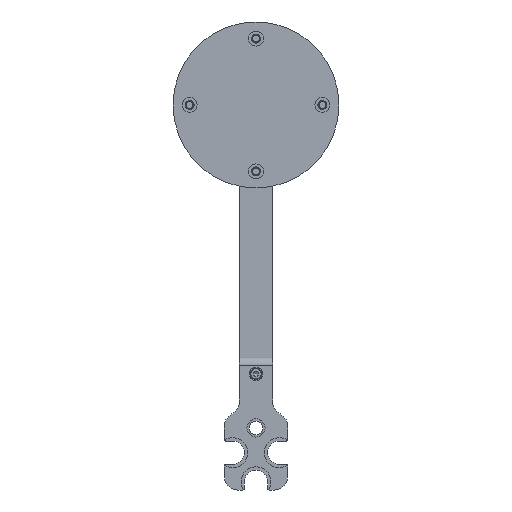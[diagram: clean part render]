
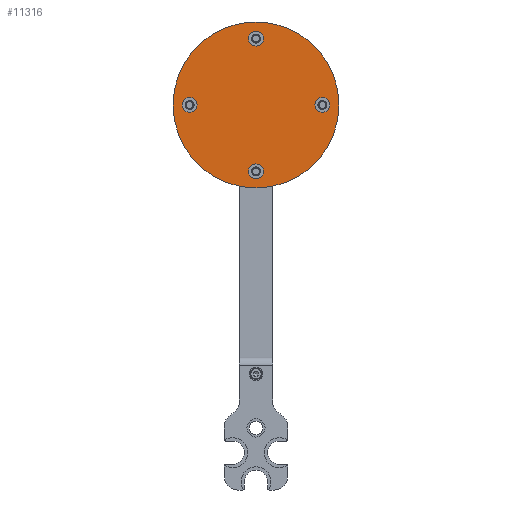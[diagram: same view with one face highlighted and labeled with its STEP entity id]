
A CAD part, front view. The second image highlights one B-rep face of the part: STEP entity #11316.
In plain terms, the highlighted planar face has unit normal (0, -1, 0) as drawn and (0, 0, 1) by its records, which use the part's own axes.
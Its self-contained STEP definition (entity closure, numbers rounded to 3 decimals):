
#615=FACE_BOUND('',#1568,.T.);
#616=FACE_BOUND('',#1569,.T.);
#617=FACE_BOUND('',#1570,.T.);
#618=FACE_BOUND('',#1571,.T.);
#899=FACE_OUTER_BOUND('',#1567,.T.);
#1567=EDGE_LOOP('',(#8620));
#1568=EDGE_LOOP('',(#8621));
#1569=EDGE_LOOP('',(#8622));
#1570=EDGE_LOOP('',(#8623));
#1571=EDGE_LOOP('',(#8624));
#2081=CIRCLE('',#12318,4.5);
#2085=CIRCLE('',#12325,4.5);
#2089=CIRCLE('',#12332,4.5);
#2093=CIRCLE('',#12339,4.5);
#2095=CIRCLE('',#12343,50.);
#5016=VERTEX_POINT('',#17222);
#5020=VERTEX_POINT('',#17235);
#5024=VERTEX_POINT('',#17248);
#5028=VERTEX_POINT('',#17261);
#5030=VERTEX_POINT('',#17269);
#6315=EDGE_CURVE('',#5016,#5016,#2081,.T.);
#6321=EDGE_CURVE('',#5020,#5020,#2085,.T.);
#6327=EDGE_CURVE('',#5024,#5024,#2089,.T.);
#6333=EDGE_CURVE('',#5028,#5028,#2093,.T.);
#6337=EDGE_CURVE('',#5030,#5030,#2095,.T.);
#8620=ORIENTED_EDGE('',*,*,#6337,.T.);
#8621=ORIENTED_EDGE('',*,*,#6315,.T.);
#8622=ORIENTED_EDGE('',*,*,#6321,.T.);
#8623=ORIENTED_EDGE('',*,*,#6327,.T.);
#8624=ORIENTED_EDGE('',*,*,#6333,.T.);
#10839=PLANE('',#12345);
#11316=ADVANCED_FACE('',(#899,#615,#616,#617,#618),#10839,.T.);
#12318=AXIS2_PLACEMENT_3D('',#17223,#14108,#14109);
#12325=AXIS2_PLACEMENT_3D('',#17236,#14124,#14125);
#12332=AXIS2_PLACEMENT_3D('',#17249,#14140,#14141);
#12339=AXIS2_PLACEMENT_3D('',#17262,#14156,#14157);
#12343=AXIS2_PLACEMENT_3D('',#17270,#14166,#14167);
#12345=AXIS2_PLACEMENT_3D('',#17274,#14171,#14172);
#14108=DIRECTION('center_axis',(0.,0.,-1.));
#14109=DIRECTION('ref_axis',(0.,-1.,0.));
#14124=DIRECTION('center_axis',(0.,0.,-1.));
#14125=DIRECTION('ref_axis',(-1.,0.,0.));
#14140=DIRECTION('center_axis',(0.,0.,-1.));
#14141=DIRECTION('ref_axis',(0.,1.,0.));
#14156=DIRECTION('center_axis',(0.,0.,-1.));
#14157=DIRECTION('ref_axis',(1.,0.,0.));
#14166=DIRECTION('center_axis',(0.,0.,1.));
#14167=DIRECTION('ref_axis',(1.,0.,0.));
#14171=DIRECTION('center_axis',(0.,0.,1.));
#14172=DIRECTION('ref_axis',(1.,0.,0.));
#17222=CARTESIAN_POINT('',(40.,4.5,20.));
#17223=CARTESIAN_POINT('Origin',(40.,0.,20.));
#17235=CARTESIAN_POINT('',(4.5,-40.,20.));
#17236=CARTESIAN_POINT('Origin',(0.,-40.,20.));
#17248=CARTESIAN_POINT('',(-40.,-4.5,20.));
#17249=CARTESIAN_POINT('Origin',(-40.,0.,20.));
#17261=CARTESIAN_POINT('',(-4.5,40.,20.));
#17262=CARTESIAN_POINT('Origin',(0.,40.,20.));
#17269=CARTESIAN_POINT('',(-50.,0.,20.));
#17270=CARTESIAN_POINT('Origin',(0.,0.,20.));
#17274=CARTESIAN_POINT('Origin',(0.,0.,20.));
